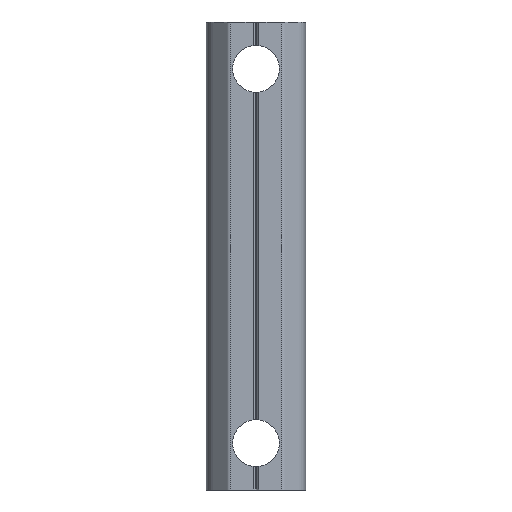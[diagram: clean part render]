
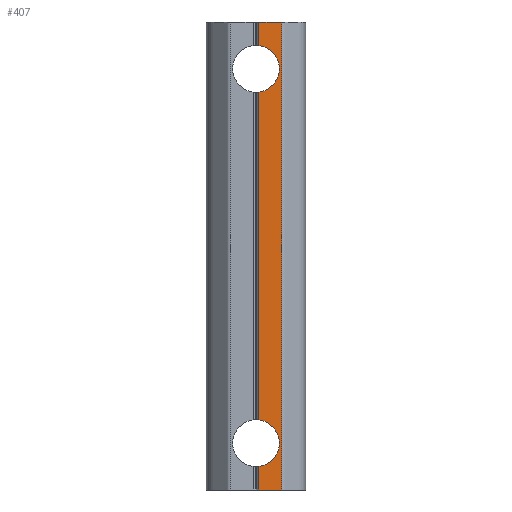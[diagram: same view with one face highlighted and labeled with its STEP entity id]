
A CAD part, front view. The second image highlights one B-rep face of the part: STEP entity #407.
In plain terms, the highlighted planar face has unit normal (0, -1, 0).
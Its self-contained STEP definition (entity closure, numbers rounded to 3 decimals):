
#42 = DIRECTION ( 'NONE',  ( 0., -1., 0. ) ) ;
#85 = VECTOR ( 'NONE', #549, 1000. ) ;
#91 = ORIENTED_EDGE ( 'NONE', *, *, #915, .T. ) ;
#102 = EDGE_CURVE ( 'NONE', #1266, #1401, #1824, .T. ) ;
#123 = CARTESIAN_POINT ( 'NONE',  ( -2.936, 0., 25. ) ) ;
#126 = CARTESIAN_POINT ( 'NONE',  ( 0.291, 0., 25. ) ) ;
#154 = EDGE_CURVE ( 'NONE', #1571, #1866, #1729, .T. ) ;
#157 = CARTESIAN_POINT ( 'NONE',  ( 0.291, 0., 17.517 ) ) ;
#160 = DIRECTION ( 'NONE',  ( 1., 0., 0. ) ) ;
#201 = CARTESIAN_POINT ( 'NONE',  ( 0., 0., 20. ) ) ;
#290 = ORIENTED_EDGE ( 'NONE', *, *, #1022, .T. ) ;
#318 = CARTESIAN_POINT ( 'NONE',  ( 2.728, 0., -25. ) ) ;
#339 = CARTESIAN_POINT ( 'NONE',  ( 0., 0., -20. ) ) ;
#379 = VERTEX_POINT ( 'NONE', #765 ) ;
#384 = DIRECTION ( 'NONE',  ( 1., 0., 0. ) ) ;
#407 = ADVANCED_FACE ( 'NONE', ( #907 ), #1258, .T. ) ;
#409 = ORIENTED_EDGE ( 'NONE', *, *, #102, .T. ) ;
#424 = EDGE_CURVE ( 'NONE', #538, #744, #1263, .T. ) ;
#427 = CARTESIAN_POINT ( 'NONE',  ( 0.291, 0., 25. ) ) ;
#445 = CARTESIAN_POINT ( 'NONE',  ( -2.936, 0., -25. ) ) ;
#461 = LINE ( 'NONE', #729, #1297 ) ;
#538 = VERTEX_POINT ( 'NONE', #1427 ) ;
#549 = DIRECTION ( 'NONE',  ( 0., 0., 1. ) ) ;
#583 = VECTOR ( 'NONE', #160, 1000. ) ;
#611 = LINE ( 'NONE', #1084, #1742 ) ;
#618 = CARTESIAN_POINT ( 'NONE',  ( 0.291, 0., -25. ) ) ;
#670 = VECTOR ( 'NONE', #766, 1000. ) ;
#675 = ORIENTED_EDGE ( 'NONE', *, *, #784, .F. ) ;
#680 = ORIENTED_EDGE ( 'NONE', *, *, #1698, .F. ) ;
#726 = CARTESIAN_POINT ( 'NONE',  ( 0.291, 0., 22.483 ) ) ;
#729 = CARTESIAN_POINT ( 'NONE',  ( -2.936, 0., -25. ) ) ;
#744 = VERTEX_POINT ( 'NONE', #1718 ) ;
#752 = VERTEX_POINT ( 'NONE', #157 ) ;
#765 = CARTESIAN_POINT ( 'NONE',  ( 0.291, 0., -17.517 ) ) ;
#766 = DIRECTION ( 'NONE',  ( 0., 0., -1. ) ) ;
#784 = EDGE_CURVE ( 'NONE', #752, #1401, #1492, .T. ) ;
#844 = CARTESIAN_POINT ( 'NONE',  ( 0.291, 0., 25. ) ) ;
#848 = ORIENTED_EDGE ( 'NONE', *, *, #154, .T. ) ;
#857 = CARTESIAN_POINT ( 'NONE',  ( 0.291, 0., -22.483 ) ) ;
#907 = FACE_OUTER_BOUND ( 'NONE', #1800, .T. ) ;
#915 = EDGE_CURVE ( 'NONE', #752, #379, #611, .T. ) ;
#940 = VECTOR ( 'NONE', #1420, 1000. ) ;
#995 = ORIENTED_EDGE ( 'NONE', *, *, #1231, .F. ) ;
#1022 = EDGE_CURVE ( 'NONE', #1866, #538, #461, .T. ) ;
#1084 = CARTESIAN_POINT ( 'NONE',  ( 0.291, 0., 25. ) ) ;
#1191 = DIRECTION ( 'NONE',  ( 0., -1., 0. ) ) ;
#1197 = AXIS2_PLACEMENT_3D ( 'NONE', #339, #42, #1343 ) ;
#1231 = EDGE_CURVE ( 'NONE', #1266, #744, #1374, .T. ) ;
#1258 = PLANE ( 'NONE',  #1339 ) ;
#1263 = LINE ( 'NONE', #318, #85 ) ;
#1266 = VERTEX_POINT ( 'NONE', #427 ) ;
#1297 = VECTOR ( 'NONE', #384, 1000. ) ;
#1304 = AXIS2_PLACEMENT_3D ( 'NONE', #201, #1191, #1918 ) ;
#1339 = AXIS2_PLACEMENT_3D ( 'NONE', #445, #1897, #1862 ) ;
#1343 = DIRECTION ( 'NONE',  ( 0., 0., -1. ) ) ;
#1374 = LINE ( 'NONE', #123, #583 ) ;
#1401 = VERTEX_POINT ( 'NONE', #726 ) ;
#1420 = DIRECTION ( 'NONE',  ( 0., 0., -1. ) ) ;
#1427 = CARTESIAN_POINT ( 'NONE',  ( 2.728, 0., -25. ) ) ;
#1492 = CIRCLE ( 'NONE', #1304, 2.5 ) ;
#1571 = VERTEX_POINT ( 'NONE', #857 ) ;
#1678 = DIRECTION ( 'NONE',  ( 0., 0., -1. ) ) ;
#1698 = EDGE_CURVE ( 'NONE', #1571, #379, #1723, .T. ) ;
#1718 = CARTESIAN_POINT ( 'NONE',  ( 2.728, 0., 25. ) ) ;
#1723 = CIRCLE ( 'NONE', #1197, 2.5 ) ;
#1729 = LINE ( 'NONE', #126, #940 ) ;
#1742 = VECTOR ( 'NONE', #1678, 1000. ) ;
#1800 = EDGE_LOOP ( 'NONE', ( #290, #1890, #995, #409, #675, #91, #680, #848 ) ) ;
#1824 = LINE ( 'NONE', #844, #670 ) ;
#1862 = DIRECTION ( 'NONE',  ( 0., 0., -1. ) ) ;
#1866 = VERTEX_POINT ( 'NONE', #618 ) ;
#1890 = ORIENTED_EDGE ( 'NONE', *, *, #424, .T. ) ;
#1897 = DIRECTION ( 'NONE',  ( 0., -1., 0. ) ) ;
#1918 = DIRECTION ( 'NONE',  ( 0., 0., -1. ) ) ;
